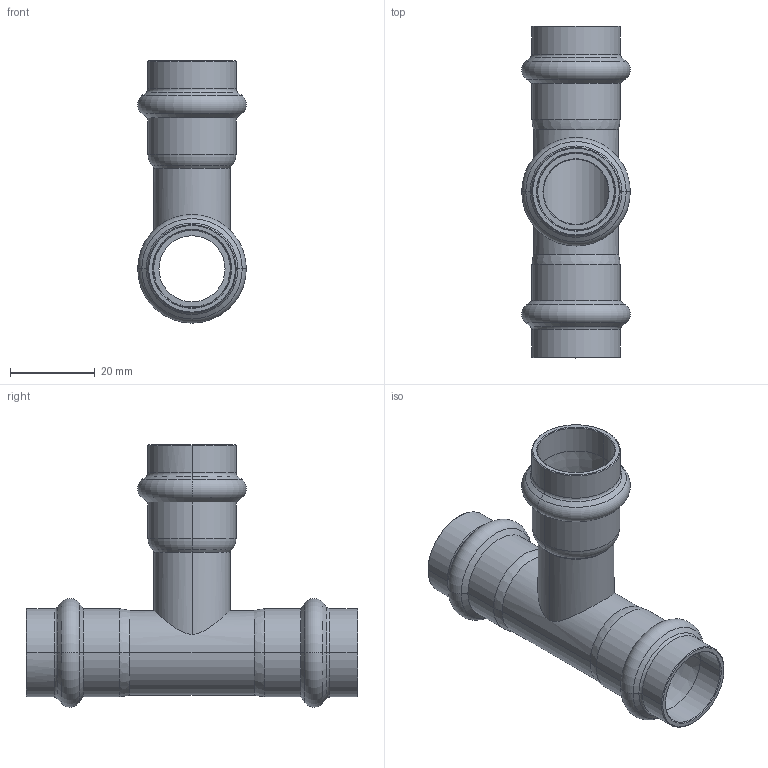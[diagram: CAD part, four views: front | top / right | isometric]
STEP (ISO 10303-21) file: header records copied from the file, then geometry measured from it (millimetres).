
FILE_DESCRIPTION(('CoCreate Modeling STEP Export'),'2;1');
FILE_NAME('8130VW18.stp','2013-01-29T16:15:32',(''),(''),'CoCreate Modeling STEP processor for AP214 (Solid Model)','CoCreate Modeling 17.00A 17-Jun-2010 (C) Parametric Technology GmbH','');
FILE_SCHEMA(('AUTOMOTIVE_DESIGN { 1 0 10303 214 1 1 1 1 }'));
Length unit declared in the file: millimetre
Products named in the file (1): 8130VW18
Bounding box: 25.7 x 78.51 x 62.04 mm (x, y, z)
Volume: 11363.6 mm3; surface area: 15093.6 mm2
Topology: 1 solids, 1 shells, 124 faces, 263 edges, 149 vertices
Faces by surface type: cylinder 40, torus 36, cone 36, plane 10, bspline 2
Entity records: 5640 total; most frequent: CARTESIAN_POINT 3371, ORIENTED_EDGE 526, DIRECTION 414, EDGE_CURVE 263, AXIS2_PLACEMENT_3D 169, VERTEX_POINT 149, EDGE_LOOP 136, FACE_OUTER_BOUND 124
